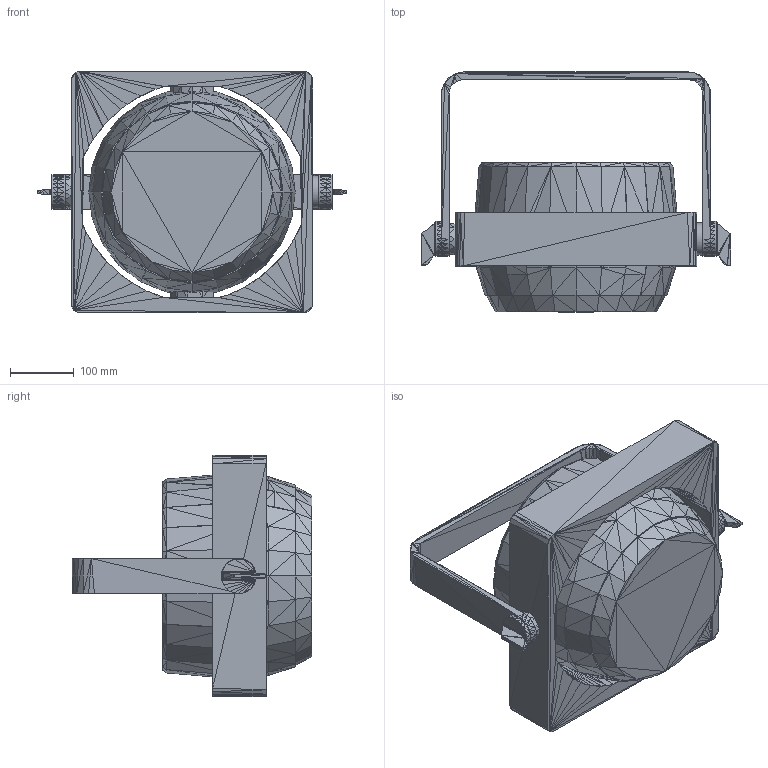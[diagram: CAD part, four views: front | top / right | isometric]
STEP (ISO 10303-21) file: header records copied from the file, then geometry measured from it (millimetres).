
FILE_DESCRIPTION(/* description */ (''),/* implementation_level */ '2;1');
FILE_NAME(/* name */ 'Strike Array Ultra_0.step',/* time_stamp */ '2026-03-10T09:45:25-04:00',/* author */ (''),/* organization */ (''),/* preprocessor_version */ 'ST-DEVELOPER v20.1',/* originating_system */ 'Autodesk Translation Framework v14.24.0.0',/* authorisation */ '');
FILE_SCHEMA (('AUTOMOTIVE_DESIGN { 1 0 10303 214 3 1 1 }'));
Length unit declared in the file: millimetre
Products named in the file (6): 00-CH-EB1000-IP00_ASM; Component140; bracket; Component141; Frame; Head
Assembly tree (5 placements, depth 4):
  00-CH-EB1000-IP00_ASM
    Component140
      bracket
    Component141
      Frame
        Head
Bounding box: 485.06 x 376.35 x 379.56 mm (x, y, z)
Volume: 21382789.6 mm3; surface area: 842185.9 mm2
Topology: 5 solids, 5 shells, 1773 faces, 2771 edges, 950 vertices
Faces by surface type: plane 1771, cylinder 2
Full cylindrical faces by diameter (mm): 50.644 x2
Entity records: 35665 total; most frequent: DIRECTION 6355, ORIENTED_EDGE 5542, CARTESIAN_POINT 5505, EDGE_CURVE 2771, LINE 2755, VECTOR 2755, AXIS2_PLACEMENT_3D 1800, FACE_OUTER_BOUND 1773
